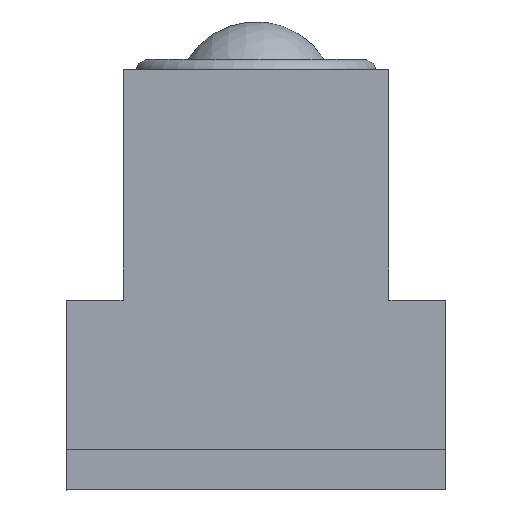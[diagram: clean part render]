
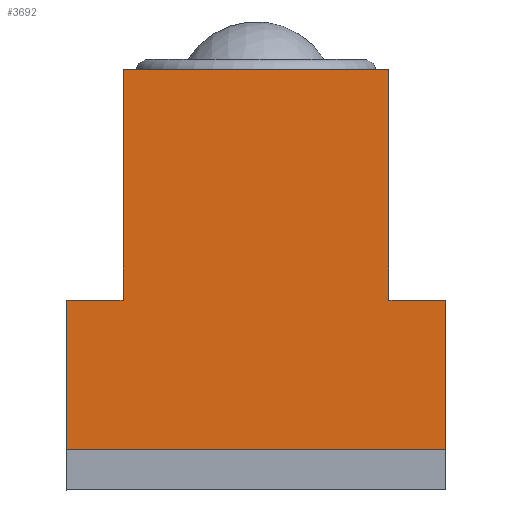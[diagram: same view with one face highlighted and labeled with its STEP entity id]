
A CAD part, left-side view. The second image highlights one B-rep face of the part: STEP entity #3692.
In plain terms, the highlighted planar face has unit normal (-1, 0, 0) as drawn and (0, 0, -1) by its records, which use the part's own axes.
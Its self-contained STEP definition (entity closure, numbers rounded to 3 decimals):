
#282=PLANE('',#4117);
#439=LINE('',#6376,#647);
#443=LINE('',#6383,#651);
#444=LINE('',#6387,#652);
#448=LINE('',#6394,#656);
#452=LINE('',#6401,#660);
#453=LINE('',#6404,#661);
#456=LINE('',#6410,#664);
#459=LINE('',#6415,#667);
#647=VECTOR('',#5085,18.2);
#651=VECTOR('',#5091,21.);
#652=VECTOR('',#5094,11.8);
#656=VECTOR('',#5100,4.5);
#660=VECTOR('',#5106,18.2);
#661=VECTOR('',#5109,4.5);
#664=VECTOR('',#5114,11.8);
#667=VECTOR('',#5119,30.);
#1156=FACE_OUTER_BOUND('',#1535,.T.);
#1535=EDGE_LOOP('',(#3294,#3295,#3296,#3297,#3298,#3299,#3300,#3301));
#2048=VERTEX_POINT('',#6373);
#2049=VERTEX_POINT('',#6375);
#2051=VERTEX_POINT('',#6381);
#2052=VERTEX_POINT('',#6385);
#2053=VERTEX_POINT('',#6386);
#2057=VERTEX_POINT('',#6399);
#2058=VERTEX_POINT('',#6403);
#2060=VERTEX_POINT('',#6409);
#2464=EDGE_CURVE('',#2048,#2049,#439,.T.);
#2468=EDGE_CURVE('',#2051,#2048,#443,.T.);
#2469=EDGE_CURVE('',#2052,#2053,#444,.T.);
#2473=EDGE_CURVE('',#2049,#2052,#448,.T.);
#2477=EDGE_CURVE('',#2057,#2051,#452,.T.);
#2478=EDGE_CURVE('',#2058,#2057,#453,.T.);
#2481=EDGE_CURVE('',#2060,#2058,#456,.T.);
#2484=EDGE_CURVE('',#2053,#2060,#459,.T.);
#3294=ORIENTED_EDGE('',*,*,#2484,.F.);
#3295=ORIENTED_EDGE('',*,*,#2469,.F.);
#3296=ORIENTED_EDGE('',*,*,#2473,.F.);
#3297=ORIENTED_EDGE('',*,*,#2464,.F.);
#3298=ORIENTED_EDGE('',*,*,#2468,.F.);
#3299=ORIENTED_EDGE('',*,*,#2477,.F.);
#3300=ORIENTED_EDGE('',*,*,#2478,.F.);
#3301=ORIENTED_EDGE('',*,*,#2481,.F.);
#3692=ADVANCED_FACE('',(#1156),#282,.F.);
#4117=AXIS2_PLACEMENT_3D('',#6418,#5123,#5124);
#5085=DIRECTION('',(0.,-1.,0.));
#5091=DIRECTION('',(-1.,0.,0.));
#5094=DIRECTION('',(0.,-1.,0.));
#5100=DIRECTION('',(-1.,0.,0.));
#5106=DIRECTION('',(0.,1.,0.));
#5109=DIRECTION('',(-1.,0.,0.));
#5114=DIRECTION('',(0.,1.,0.));
#5119=DIRECTION('',(1.,0.,0.));
#5123=DIRECTION('center_axis',(0.,0.,1.));
#5124=DIRECTION('ref_axis',(1.,0.,0.));
#6373=CARTESIAN_POINT('',(-10.5,30.,0.));
#6375=CARTESIAN_POINT('',(-10.5,11.8,0.));
#6376=CARTESIAN_POINT('',(-10.5,30.,0.));
#6381=CARTESIAN_POINT('',(10.5,30.,0.));
#6383=CARTESIAN_POINT('',(10.5,30.,0.));
#6385=CARTESIAN_POINT('',(-15.,11.8,0.));
#6386=CARTESIAN_POINT('',(-15.,0.,0.));
#6387=CARTESIAN_POINT('',(-15.,11.8,0.));
#6394=CARTESIAN_POINT('',(-10.5,11.8,0.));
#6399=CARTESIAN_POINT('',(10.5,11.8,0.));
#6401=CARTESIAN_POINT('',(10.5,11.8,0.));
#6403=CARTESIAN_POINT('',(15.,11.8,0.));
#6404=CARTESIAN_POINT('',(15.,11.8,0.));
#6409=CARTESIAN_POINT('',(15.,0.,0.));
#6410=CARTESIAN_POINT('',(15.,0.,0.));
#6415=CARTESIAN_POINT('',(-15.,0.,0.));
#6418=CARTESIAN_POINT('Origin',(0.,13.635,0.));
